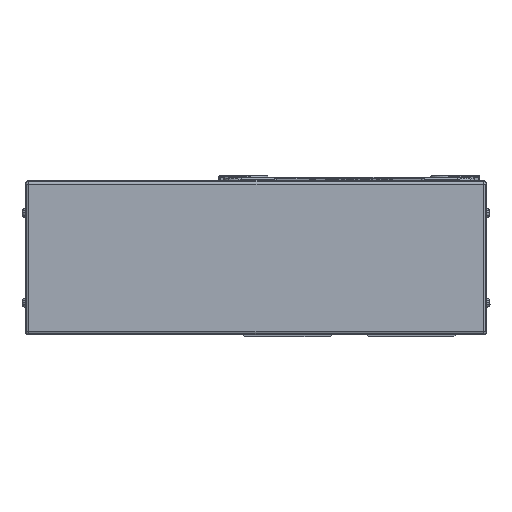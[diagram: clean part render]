
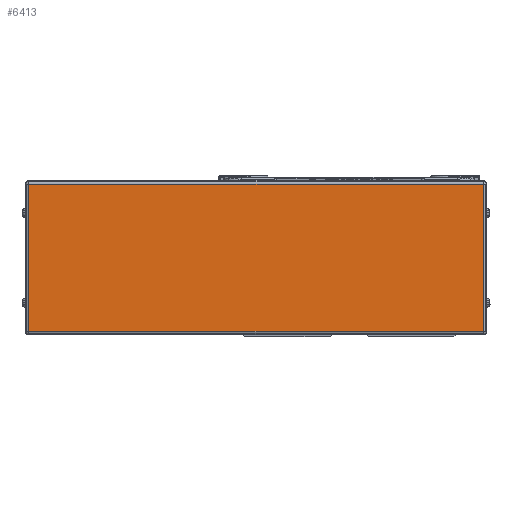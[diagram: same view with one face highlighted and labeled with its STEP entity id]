
A CAD part, left-side view. The second image highlights one B-rep face of the part: STEP entity #6413.
In plain terms, the highlighted planar face has unit normal (-1, 0, 0).
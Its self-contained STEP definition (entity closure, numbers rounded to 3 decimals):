
#6413=ADVANCED_FACE('',(#13548),#13549,.F.);
#13548=FACE_OUTER_BOUND('',#22653,.T.);
#13549=PLANE('',#22654);
#22653=EDGE_LOOP('',(#40821,#40822,#40823,#40824));
#22654=AXIS2_PLACEMENT_3D('',#40825,#40826,#40827);
#40821=ORIENTED_EDGE('',*,*,#50116,.T.);
#40822=ORIENTED_EDGE('',*,*,#55521,.T.);
#40823=ORIENTED_EDGE('',*,*,#54382,.T.);
#40824=ORIENTED_EDGE('',*,*,#51393,.T.);
#40825=CARTESIAN_POINT('',(-45.,180.5,0.));
#40826=DIRECTION('',(1.0,0.,0.));
#40827=DIRECTION('',(0.,0.,1.0));
#50116=EDGE_CURVE('',#60369,#60367,#60370,.T.);
#51393=EDGE_CURVE('',#62472,#60369,#62473,.T.);
#54382=EDGE_CURVE('',#58381,#62472,#66843,.T.);
#55521=EDGE_CURVE('',#60367,#58381,#68300,.T.);
#58381=VERTEX_POINT('',#71806);
#60367=VERTEX_POINT('',#74551);
#60369=VERTEX_POINT('',#74553);
#60370=LINE('',#74554,#74555);
#62472=VERTEX_POINT('',#77542);
#62473=LINE('',#77543,#77544);
#66843=LINE('',#83745,#83746);
#68300=LINE('',#85752,#85753);
#71806=CARTESIAN_POINT('',(-45.,-74.5,-41.));
#74551=CARTESIAN_POINT('',(-45.,178.5,-41.));
#74553=CARTESIAN_POINT('',(-45.,178.5,41.));
#74554=CARTESIAN_POINT('',(-45.,178.5,0.));
#74555=VECTOR('',#90668,10.0);
#77542=CARTESIAN_POINT('',(-45.,-74.5,41.));
#77543=CARTESIAN_POINT('',(-45.,180.5,41.));
#77544=VECTOR('',#92296,10.0);
#83745=CARTESIAN_POINT('',(-45.,-74.5,0.));
#83746=VECTOR('',#96108,10.0);
#85752=CARTESIAN_POINT('',(-45.,180.5,-41.));
#85753=VECTOR('',#97500,10.0);
#90668=DIRECTION('',(0.,0.,-1.0));
#92296=DIRECTION('',(0.,1.0,0.));
#96108=DIRECTION('',(0.,0.,1.0));
#97500=DIRECTION('',(0.,-1.0,0.));
